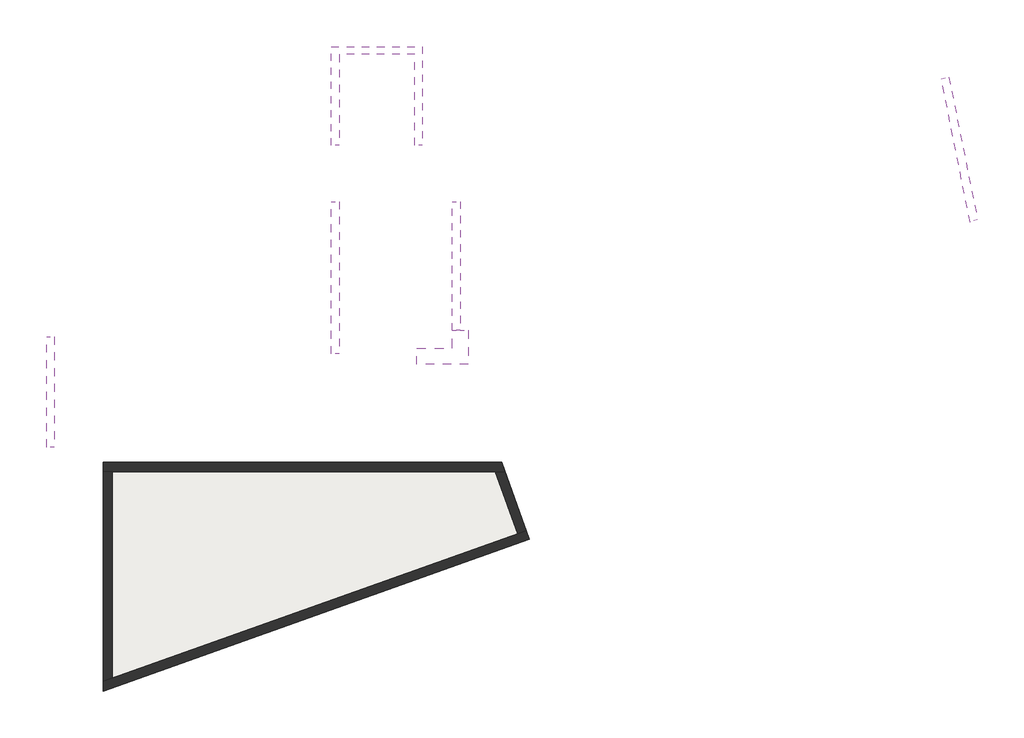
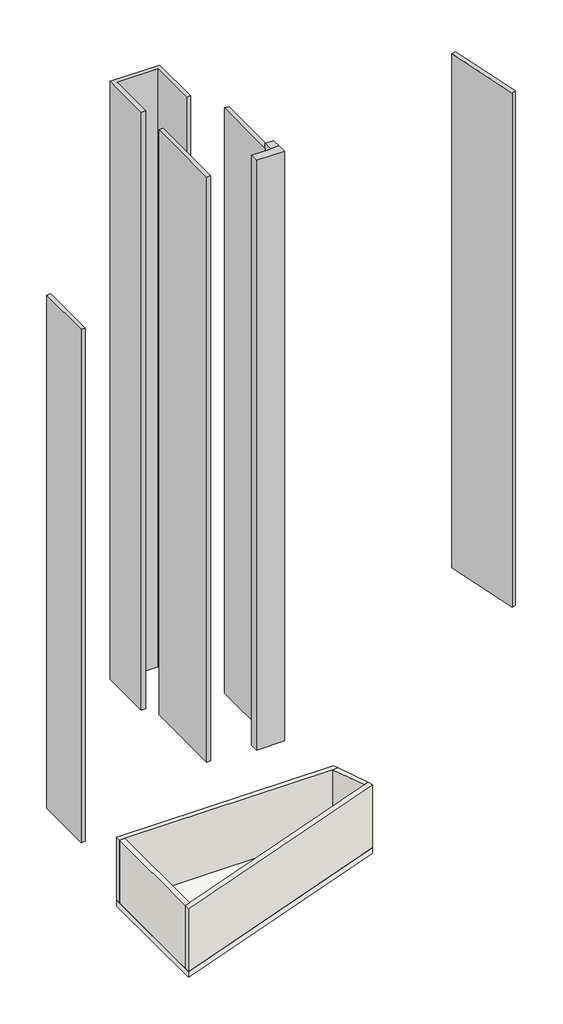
# One storey: 6 columns, 4 walls, 1 slab.
"""IFC4 building model written with IfcOpenShell, lengths in millimetres."""

from ifc_helpers import new_model, si_unit, frame, origin, place, context, project, spatial, polyline, outline, extrude, faceted_brep, transform, mapped, element, save
from components import pilares_1_pilares_1_aa8b5e75, pilares_2_pilares_1_2a632236, pilares_3_pilares_1_9bfee711, pilares_4_pilares_1_6b4ba50d, pilares_5_pilares_1_57f8f8bf, pilares_6_pilares_1_231554fc

model = new_model("IFC4")

# Units and contexts
model_context = context("Model", 3, world=origin())
ifc_project = project(units=[si_unit("LENGTHUNIT", "METRE", prefix="MILLI")], contexts=[model_context])

# Site, building, storey
site = spatial("IfcSite", under=ifc_project)
building = spatial("IfcBuilding", under=site)
storey = spatial("IfcBuildingStorey", under=building, Name="CISTERNA", Elevation=-9950.0)

# Columns
placement = place(None, origin())
pilares_1_pilares_1_shape = pilares_1_pilares_1_aa8b5e75(model_context)
element("IfcColumn", 1, ObjectType="Pilares 1 : Pilares 1", at=placement, inside=storey, context=model_context, shape_type="MappedRepresentation", body=[
    mapped(pilares_1_pilares_1_shape, transform((0.0, 0.0, 0.0), x_axis=(1.0, 0.0, 0.0), y_axis=(0.0, 1.0, 0.0), z_axis=(0.0, 0.0, 1.0))),
])
pilares_2_pilares_1_shape = pilares_2_pilares_1_2a632236(model_context)
element("IfcColumn", 2, ObjectType="Pilares 2 : Pilares 1", at=placement, inside=storey, context=model_context, shape_type="MappedRepresentation", body=[
    mapped(pilares_2_pilares_1_shape, transform((0.0, 0.0, 0.0), x_axis=(1.0, 0.0, 0.0), y_axis=(0.0, 1.0, 0.0), z_axis=(0.0, 0.0, 1.0))),
])
pilares_3_pilares_1_shape = pilares_3_pilares_1_9bfee711(model_context)
element("IfcColumn", 3, ObjectType="Pilares 3 : Pilares 1", at=placement, inside=storey, context=model_context, shape_type="MappedRepresentation", body=[
    mapped(pilares_3_pilares_1_shape, transform((0.0, 0.0, 0.0), x_axis=(1.0, 0.0, 0.0), y_axis=(0.0, 1.0, 0.0), z_axis=(0.0, 0.0, 1.0))),
])
pilares_4_pilares_1_shape = pilares_4_pilares_1_6b4ba50d(model_context)
element("IfcColumn", 4, ObjectType="Pilares 4 : Pilares 1", at=placement, inside=storey, context=model_context, shape_type="MappedRepresentation", body=[
    mapped(pilares_4_pilares_1_shape, transform((0.0, 0.0, 0.0), x_axis=(1.0, 0.0, 0.0), y_axis=(0.0, 1.0, 0.0), z_axis=(0.0, 0.0, 1.0))),
])
pilares_5_pilares_1_shape = pilares_5_pilares_1_57f8f8bf(model_context)
element("IfcColumn", 5, ObjectType="Pilares 5 : Pilares 1", at=placement, inside=storey, context=model_context, shape_type="MappedRepresentation", body=[
    mapped(pilares_5_pilares_1_shape, transform((0.0, 0.0, 0.0), x_axis=(1.0, 0.0, 0.0), y_axis=(0.0, 1.0, 0.0), z_axis=(0.0, 0.0, 1.0))),
])
pilares_6_pilares_1_shape = pilares_6_pilares_1_231554fc(model_context)
element("IfcColumn", 6, ObjectType="Pilares 6 : Pilares 1", at=placement, inside=storey, context=model_context, shape_type="MappedRepresentation", body=[
    mapped(pilares_6_pilares_1_shape, transform((0.0, 0.0, 0.0), x_axis=(1.0, 0.0, 0.0), y_axis=(0.0, 1.0, 0.0), z_axis=(0.0, 0.0, 1.0))),
])

# Slab
element("IfcSlab", 7, ObjectType="Losa sótano", at=placement, inside=storey, context=model_context, shape_type="SweptSolid", body=[
    extrude(outline(polyline([(35233.8589874, 22762.4464142), (44004.9076443, 22762.4464142), (44608.2158717, 21069.4417845), (35233.8589874, 17728.8563333), (35233.8589874, 22762.4464142)])), frame((0.0, 0.0, -10200.0), z_axis=(0.0, 0.0, 1.0), x_axis=(1.0, 0.0, 0.0)), (0.0, 0.0, 1.0), 250.0),
])

# Walls
element("IfcWall", 8, ObjectType="Muro Contención - 20 cm", at=placement, inside=storey, context=model_context, shape_type="Brep", body=[
    faceted_brep([(35233.8589874, 17728.8563333, -9950.0), (44608.2158717, 21069.4417845, -9950.0), (44608.2158717, 21069.4417845, -7250.0), (35233.8589874, 17728.8563333, -7250.0), (35233.8589874, 17941.1757021, -9950.0), (35233.8589874, 17941.1757021, -7250.0), (35433.8589874, 18012.4464142, -7250.0), (44352.6850517, 21190.7018359, -7250.0), (44541.0804874, 21257.8372201, -7250.0), (44541.0804874, 21257.8372201, -9950.0), (44352.6850517, 21190.7018359, -9950.0), (35433.8589874, 18012.4464142, -9950.0)], [[[0, 1, 2, 3]], [[4, 5, 6, 7, 8, 9, 10, 11]], [[1, 0, 4, 11, 10, 9]], [[3, 2, 8, 7, 6, 5]], [[0, 3, 5, 4]], [[2, 1, 9, 8]]]),
])
element("IfcWall", 9, ObjectType="Muro Contención - 20 cm", at=placement, inside=storey, context=model_context, shape_type="SweptSolid", body=[
    extrude(outline(polyline([(35433.8589874, 22562.4464142), (35433.8589874, 18012.4464142), (35233.8589874, 17941.1757021), (35233.8589874, 22562.4464142), (35433.8589874, 22562.4464142)])), frame((0.0, 0.0, -9950.0), z_axis=(0.0, 0.0, 1.0), x_axis=(1.0, 0.0, 0.0)), (0.0, 0.0, 1.0), 2700.0),
])
element("IfcWall", 10, ObjectType="Muro Contención - 20 cm", at=placement, inside=storey, context=model_context, shape_type="Brep", body=[
    faceted_brep([(35233.8589874, 22562.4464142, -9950.0), (35433.8589874, 22562.4464142, -9950.0), (43863.8589874, 22562.4464142, -9950.0), (44076.1783563, 22562.4464142, -9950.0), (44076.1783563, 22562.4464142, -7250.0), (43863.8589874, 22562.4464142, -7250.0), (35433.8589874, 22562.4464142, -7250.0), (35233.8589874, 22562.4464142, -7250.0), (35233.8589874, 22762.4464142, -9950.0), (35233.8589874, 22762.4464142, -7250.0), (44004.9076443, 22762.4464142, -7250.0), (44004.9076443, 22762.4464142, -9950.0)], [[[0, 1, 2, 3, 4, 5, 6, 7]], [[8, 9, 10, 11]], [[3, 2, 1, 0, 8, 11]], [[7, 6, 5, 4, 10, 9]], [[0, 7, 9, 8]], [[4, 3, 11, 10]]]),
])
element("IfcWall", 11, ObjectType="Muro Contención - 20 cm", at=placement, inside=storey, context=model_context, shape_type="SweptSolid", body=[
    extrude(outline(polyline([(44352.6850517, 21190.7018359), (43863.8589874, 22562.4464142), (44076.1783563, 22562.4464142), (44541.0804874, 21257.8372201), (44352.6850517, 21190.7018359)])), frame((0.0, 0.0, -9950.0), z_axis=(0.0, 0.0, 1.0), x_axis=(1.0, 0.0, 0.0)), (0.0, 0.0, 1.0), 2700.0),
])

save(model, "model.ifc")
